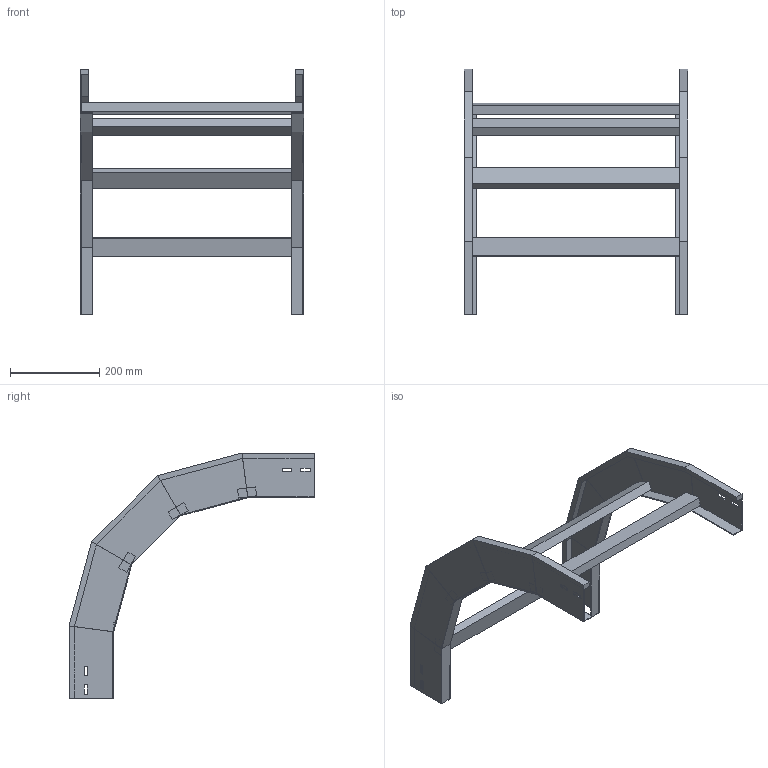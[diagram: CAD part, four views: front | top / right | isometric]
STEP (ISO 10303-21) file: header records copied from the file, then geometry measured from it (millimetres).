
FILE_DESCRIPTION (( 'STEP AP214' ), '1' );
FILE_NAME ('A2_33B3D500.step', '2025-02-21T15:01:58', ( '' ), ( '' ), 'SwSTEP 2.0', 'SolidWorks 2023', '' );
FILE_SCHEMA (( 'AUTOMOTIVE_DESIGN' ));
Length unit declared in the file: millimetre
Products named in the file (3): LONGH.DISCESA_90°_H100_R300; A2_33B3D500; TRAVERSINO_500
Assembly tree (6 placements, depth 2):
  A2_33B3D500
    LONGH.DISCESA_90°_H100_R300  x2
    TRAVERSINO_500  x4
Bounding box: 500 x 549.44 x 549.44 mm (x, y, z)
Volume: 2370660.1 mm3; surface area: 726739.4 mm2
Topology: 6 solids, 6 shells, 140 faces, 320 edges, 192 vertices
Faces by surface type: plane 140
Entity records: 1872 total; most frequent: CARTESIAN_POINT 309, ORIENTED_EDGE 296, DIRECTION 294, VECTOR 148, EDGE_CURVE 148, LINE 148, VERTEX_POINT 88, AXIS2_PLACEMENT_3D 73
